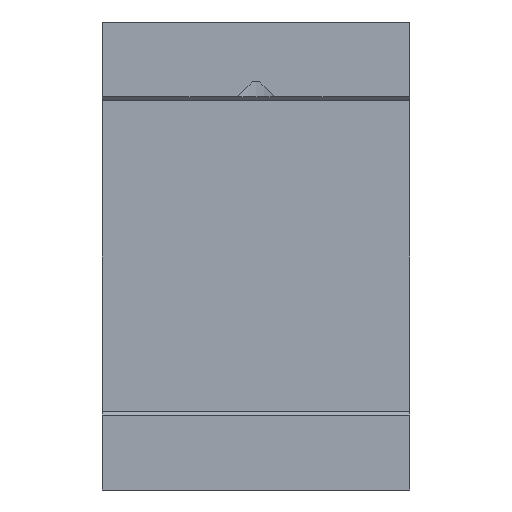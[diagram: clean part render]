
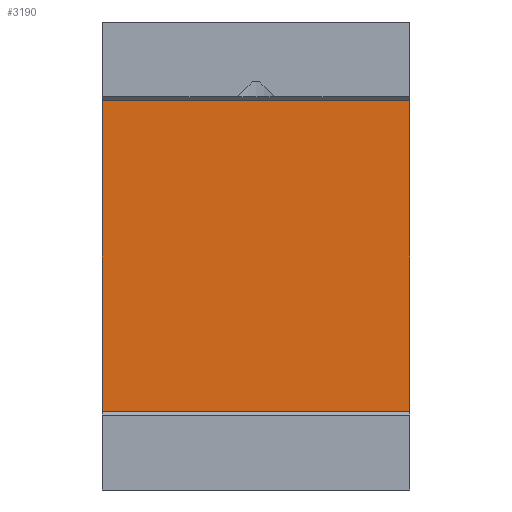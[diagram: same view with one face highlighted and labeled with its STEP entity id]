
A CAD part, left-side view. The second image highlights one B-rep face of the part: STEP entity #3190.
In plain terms, the highlighted planar face has unit normal (-1, 0, 0).
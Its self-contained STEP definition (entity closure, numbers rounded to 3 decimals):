
#2 = ORIENTED_EDGE ( 'NONE', *, *, #103, .T. ) ;
#103 = EDGE_CURVE ( 'NONE', #651, #2537, #1381, .T. ) ;
#203 = FACE_OUTER_BOUND ( 'NONE', #935, .T. ) ;
#238 = LINE ( 'NONE', #1165, #863 ) ;
#239 = CARTESIAN_POINT ( 'NONE',  ( -15., 71., 15. ) ) ;
#472 = CARTESIAN_POINT ( 'NONE',  ( -15., 71., -6. ) ) ;
#513 = VECTOR ( 'NONE', #2162, 1000. ) ;
#638 = EDGE_CURVE ( 'NONE', #2153, #2537, #238, .T. ) ;
#651 = VERTEX_POINT ( 'NONE', #3261 ) ;
#781 = VECTOR ( 'NONE', #2352, 1000. ) ;
#846 = PLANE ( 'NONE',  #1279 ) ;
#854 = DIRECTION ( 'NONE',  ( 0., 0., -1. ) ) ;
#863 = VECTOR ( 'NONE', #1700, 1000. ) ;
#869 = LINE ( 'NONE', #239, #781 ) ;
#935 = EDGE_LOOP ( 'NONE', ( #2757, #3175, #1447, #2 ) ) ;
#1054 = EDGE_CURVE ( 'NONE', #2153, #2483, #2575, .T. ) ;
#1165 = CARTESIAN_POINT ( 'NONE',  ( -15., -11., -110. ) ) ;
#1279 = AXIS2_PLACEMENT_3D ( 'NONE', #1634, #2426, #854 ) ;
#1381 = LINE ( 'NONE', #1895, #513 ) ;
#1447 = ORIENTED_EDGE ( 'NONE', *, *, #2988, .F. ) ;
#1634 = CARTESIAN_POINT ( 'NONE',  ( -15., 60., 0. ) ) ;
#1700 = DIRECTION ( 'NONE',  ( 0., 0., -1. ) ) ;
#1812 = VECTOR ( 'NONE', #2534, 1000. ) ;
#1895 = CARTESIAN_POINT ( 'NONE',  ( -15., -11., -89. ) ) ;
#2153 = VERTEX_POINT ( 'NONE', #3206 ) ;
#2162 = DIRECTION ( 'NONE',  ( 0., -1., 0. ) ) ;
#2278 = CARTESIAN_POINT ( 'NONE',  ( -15., 60., -6. ) ) ;
#2352 = DIRECTION ( 'NONE',  ( 0., 0., 1. ) ) ;
#2426 = DIRECTION ( 'NONE',  ( 1., 0., 0. ) ) ;
#2483 = VERTEX_POINT ( 'NONE', #472 ) ;
#2534 = DIRECTION ( 'NONE',  ( 0., 1., 0. ) ) ;
#2537 = VERTEX_POINT ( 'NONE', #2854 ) ;
#2575 = LINE ( 'NONE', #2278, #1812 ) ;
#2757 = ORIENTED_EDGE ( 'NONE', *, *, #638, .F. ) ;
#2854 = CARTESIAN_POINT ( 'NONE',  ( -15., -11., -89. ) ) ;
#2988 = EDGE_CURVE ( 'NONE', #651, #2483, #869, .T. ) ;
#3175 = ORIENTED_EDGE ( 'NONE', *, *, #1054, .T. ) ;
#3190 = ADVANCED_FACE ( 'NONE', ( #203 ), #846, .F. ) ;
#3206 = CARTESIAN_POINT ( 'NONE',  ( -15., -11., -6. ) ) ;
#3261 = CARTESIAN_POINT ( 'NONE',  ( -15., 71., -89. ) ) ;
